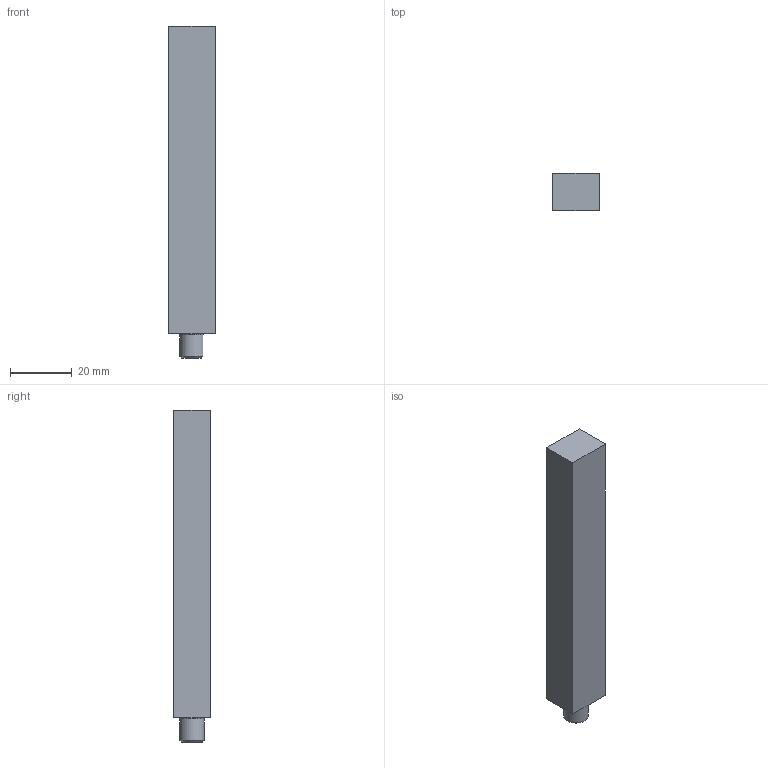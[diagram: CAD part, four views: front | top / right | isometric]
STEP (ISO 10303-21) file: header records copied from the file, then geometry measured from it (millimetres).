
FILE_DESCRIPTION (( 'STEP AP214' ), '1' );
FILE_NAME ('KKPHF Pin S_-_8-100.step', '2024-02-07T08:54:03', ( '' ), ( '' ), 'SwSTEP 2.0', 'SolidWorks 2020', '' );
FILE_SCHEMA (( 'AUTOMOTIVE_DESIGN' ));
Length unit declared in the file: millimetre
Products named in the file (1): KKPHF  Pin S_-_8-100
Bounding box: 15 x 12 x 107.9 mm (x, y, z)
Volume: 18295.4 mm3; surface area: 6051.5 mm2
Topology: 1 solids, 1 shells, 15 faces, 31 edges, 19 vertices
Faces by surface type: plane 9, cylinder 3, cone 2, torus 1
Full cylindrical faces by diameter (mm): 3.3 x1
Entity records: 425 total; most frequent: CARTESIAN_POINT 78, DIRECTION 62, ORIENTED_EDGE 56, EDGE_CURVE 28, AXIS2_PLACEMENT_3D 22, LINE 18, VERTEX_POINT 18, EDGE_LOOP 18
